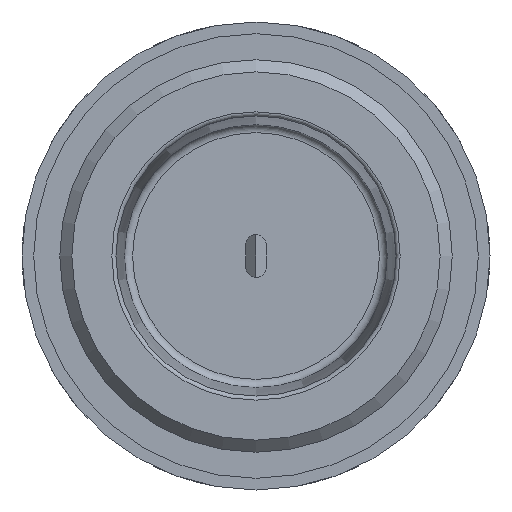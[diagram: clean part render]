
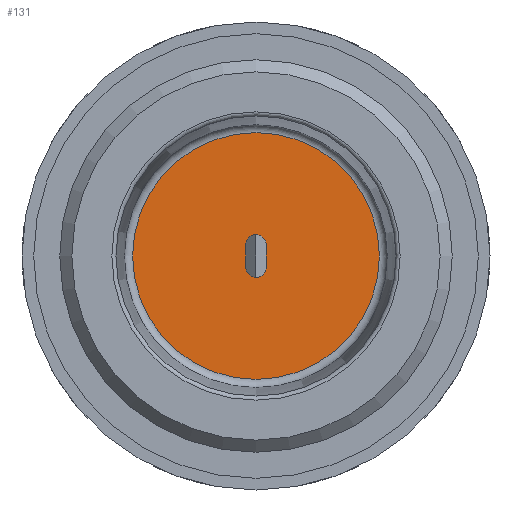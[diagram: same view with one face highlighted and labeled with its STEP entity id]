
A CAD part, left-side view. The second image highlights one B-rep face of the part: STEP entity #131.
In plain terms, the highlighted planar face has unit normal (-1, 0, 0).
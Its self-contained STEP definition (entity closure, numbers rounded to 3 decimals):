
#131 = ADVANCED_FACE( '', ( #263, #264 ), #265, .F. );
#263 = FACE_OUTER_BOUND( '', #402, .T. );
#264 = FACE_BOUND( '', #403, .T. );
#265 = PLANE( '', #404 );
#402 = EDGE_LOOP( '', ( #819 ) );
#403 = EDGE_LOOP( '', ( #820, #821, #822, #823 ) );
#404 = AXIS2_PLACEMENT_3D( '', #824, #825, #826 );
#819 = ORIENTED_EDGE( '', *, *, #1041, .F. );
#820 = ORIENTED_EDGE( '', *, *, #1042, .T. );
#821 = ORIENTED_EDGE( '', *, *, #960, .T. );
#822 = ORIENTED_EDGE( '', *, *, #964, .T. );
#823 = ORIENTED_EDGE( '', *, *, #1043, .T. );
#824 = CARTESIAN_POINT( '', ( 31., 0., 0. ) );
#825 = DIRECTION( '', ( 1., 0., 0. ) );
#826 = DIRECTION( '', ( 0., 0., -1. ) );
#960 = EDGE_CURVE( '', #1162, #1166, #1168, .T. );
#964 = EDGE_CURVE( '', #1166, #1173, #1175, .T. );
#1041 = EDGE_CURVE( '', #1290, #1290, #1291, .T. );
#1042 = EDGE_CURVE( '', #1292, #1162, #1293, .T. );
#1043 = EDGE_CURVE( '', #1173, #1292, #1294, .T. );
#1162 = VERTEX_POINT( '', #1479 );
#1166 = VERTEX_POINT( '', #1485 );
#1168 = LINE( '', #1488, #1489 );
#1173 = VERTEX_POINT( '', #1494 );
#1175 = CIRCLE( '', #1497, 1.25 );
#1290 = VERTEX_POINT( '', #1668 );
#1291 = CIRCLE( '', #1669, 15.024 );
#1292 = VERTEX_POINT( '', #1670 );
#1293 = CIRCLE( '', #1671, 1.25 );
#1294 = LINE( '', #1672, #1673 );
#1479 = CARTESIAN_POINT( '', ( 31., 1.25, -1.35 ) );
#1485 = CARTESIAN_POINT( '', ( 31., 1.25, 1.35 ) );
#1488 = CARTESIAN_POINT( '', ( 31., 1.25, 0. ) );
#1489 = VECTOR( '', #1790, 1000. );
#1494 = CARTESIAN_POINT( '', ( 31., -1.25, 1.35 ) );
#1497 = AXIS2_PLACEMENT_3D( '', #1798, #1799, #1800 );
#1668 = CARTESIAN_POINT( '', ( 31., 0., -15.024 ) );
#1669 = AXIS2_PLACEMENT_3D( '', #1917, #1918, #1919 );
#1670 = CARTESIAN_POINT( '', ( 31., -1.25, -1.35 ) );
#1671 = AXIS2_PLACEMENT_3D( '', #1920, #1921, #1922 );
#1672 = CARTESIAN_POINT( '', ( 31., -1.25, 0. ) );
#1673 = VECTOR( '', #1923, 1000. );
#1790 = DIRECTION( '', ( 0., 0., 1. ) );
#1798 = CARTESIAN_POINT( '', ( 31., 0., 1.35 ) );
#1799 = DIRECTION( '', ( 1., 0., 0. ) );
#1800 = DIRECTION( '', ( 0., 0., -1. ) );
#1917 = CARTESIAN_POINT( '', ( 31., 0., 0. ) );
#1918 = DIRECTION( '', ( 1., 0., 0. ) );
#1919 = DIRECTION( '', ( 0., 0., -1. ) );
#1920 = CARTESIAN_POINT( '', ( 31., 0., -1.35 ) );
#1921 = DIRECTION( '', ( 1., 0., 0. ) );
#1922 = DIRECTION( '', ( 0., 0., -1. ) );
#1923 = DIRECTION( '', ( 0., 0., -1. ) );
